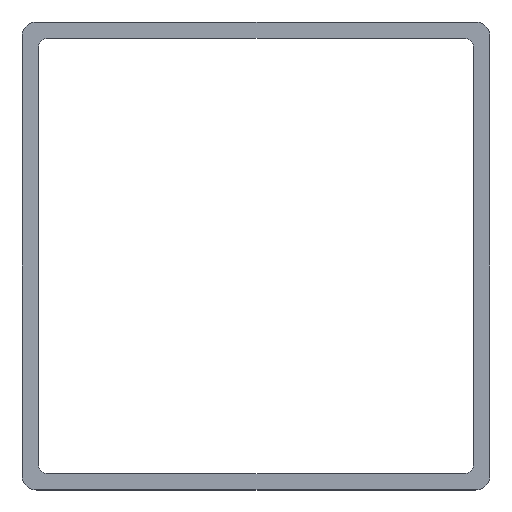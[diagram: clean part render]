
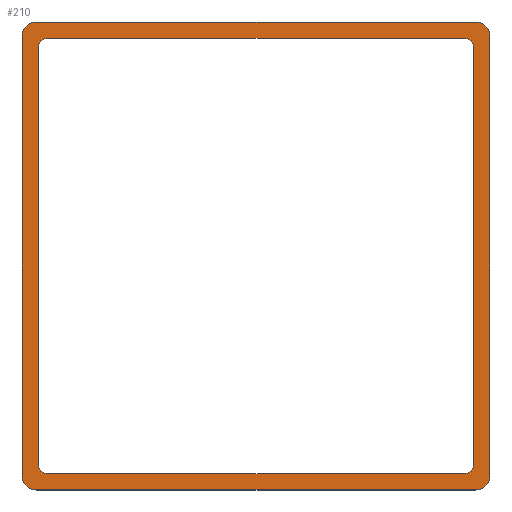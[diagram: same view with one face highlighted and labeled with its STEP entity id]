
A CAD part, top view. The second image highlights one B-rep face of the part: STEP entity #210.
In plain terms, the highlighted planar face has unit normal (0, 0, 1).
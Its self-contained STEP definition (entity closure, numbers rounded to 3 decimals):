
#3 = VERTEX_POINT ( 'NONE', #178 ) ;
#4 = EDGE_CURVE ( 'NONE', #577, #206, #215, .T. ) ;
#5 = CARTESIAN_POINT ( 'NONE',  ( -23.9, 23.9, 1.5 ) ) ;
#8 = AXIS2_PLACEMENT_3D ( 'NONE', #637, #354, #23 ) ;
#14 = CARTESIAN_POINT ( 'NONE',  ( 21.25, 21.25, 1.5 ) ) ;
#15 = VERTEX_POINT ( 'NONE', #404 ) ;
#19 = CARTESIAN_POINT ( 'NONE',  ( 0., 0., 1.5 ) ) ;
#20 = ORIENTED_EDGE ( 'NONE', *, *, #260, .F. ) ;
#23 = DIRECTION ( 'NONE',  ( -1., 0., 0. ) ) ;
#24 = DIRECTION ( 'NONE',  ( -1., 0., 0. ) ) ;
#28 = VECTOR ( 'NONE', #519, 1000. ) ;
#33 = ORIENTED_EDGE ( 'NONE', *, *, #616, .F. ) ;
#47 = VERTEX_POINT ( 'NONE', #255 ) ;
#49 = LINE ( 'NONE', #124, #171 ) ;
#65 = VERTEX_POINT ( 'NONE', #614 ) ;
#66 = DIRECTION ( 'NONE',  ( -1., 0., 0. ) ) ;
#69 = ORIENTED_EDGE ( 'NONE', *, *, #438, .F. ) ;
#74 = DIRECTION ( 'NONE',  ( -1., 0., 0. ) ) ;
#78 = DIRECTION ( 'NONE',  ( 0., 0., 1. ) ) ;
#85 = AXIS2_PLACEMENT_3D ( 'NONE', #146, #471, #106 ) ;
#91 = CARTESIAN_POINT ( 'NONE',  ( -22.4, -23.9, 1.5 ) ) ;
#95 = CIRCLE ( 'NONE', #517, 1.5 ) ;
#99 = DIRECTION ( 'NONE',  ( 1., 0., 0. ) ) ;
#100 = ORIENTED_EDGE ( 'NONE', *, *, #131, .T. ) ;
#102 = AXIS2_PLACEMENT_3D ( 'NONE', #19, #399, #74 ) ;
#106 = DIRECTION ( 'NONE',  ( -1., 0., 0. ) ) ;
#113 = AXIS2_PLACEMENT_3D ( 'NONE', #14, #395, #66 ) ;
#115 = CARTESIAN_POINT ( 'NONE',  ( -22.4, 22.4, 1.5 ) ) ;
#117 = LINE ( 'NONE', #5, #627 ) ;
#120 = LINE ( 'NONE', #415, #644 ) ;
#124 = CARTESIAN_POINT ( 'NONE',  ( -22.25, -22.25, 1.5 ) ) ;
#131 = EDGE_CURVE ( 'NONE', #65, #15, #589, .T. ) ;
#138 = EDGE_CURVE ( 'NONE', #243, #65, #573, .T. ) ;
#139 = AXIS2_PLACEMENT_3D ( 'NONE', #242, #572, #286 ) ;
#140 = VERTEX_POINT ( 'NONE', #381 ) ;
#145 = AXIS2_PLACEMENT_3D ( 'NONE', #400, #78, #24 ) ;
#146 = CARTESIAN_POINT ( 'NONE',  ( 22.4, 22.4, 1.5 ) ) ;
#148 = ORIENTED_EDGE ( 'NONE', *, *, #263, .T. ) ;
#150 = CARTESIAN_POINT ( 'NONE',  ( 22.25, 21.25, 1.5 ) ) ;
#160 = DIRECTION ( 'NONE',  ( -1., 0., 0. ) ) ;
#164 = CARTESIAN_POINT ( 'NONE',  ( -23.9, 22.4, 1.5 ) ) ;
#170 = VERTEX_POINT ( 'NONE', #478 ) ;
#171 = VECTOR ( 'NONE', #497, 1000. ) ;
#173 = ORIENTED_EDGE ( 'NONE', *, *, #138, .T. ) ;
#178 = CARTESIAN_POINT ( 'NONE',  ( -22.25, 21.25, 1.5 ) ) ;
#180 = AXIS2_PLACEMENT_3D ( 'NONE', #570, #282, #624 ) ;
#196 = EDGE_CURVE ( 'NONE', #322, #563, #95, .T. ) ;
#206 = VERTEX_POINT ( 'NONE', #91 ) ;
#209 = CARTESIAN_POINT ( 'NONE',  ( -22.4, 23.9, 1.5 ) ) ;
#210 = ADVANCED_FACE ( 'NONE', ( #554, #288 ), #631, .F. ) ;
#215 = CIRCLE ( 'NONE', #145, 1.5 ) ;
#216 = DIRECTION ( 'NONE',  ( 0., -1., 0. ) ) ;
#223 = ORIENTED_EDGE ( 'NONE', *, *, #196, .T. ) ;
#228 = EDGE_CURVE ( 'NONE', #206, #305, #120, .T. ) ;
#230 = CARTESIAN_POINT ( 'NONE',  ( 23.9, -23.9, 1.5 ) ) ;
#232 = CARTESIAN_POINT ( 'NONE',  ( -22.25, -22.25, 1.5 ) ) ;
#242 = CARTESIAN_POINT ( 'NONE',  ( -21.25, 21.25, 1.5 ) ) ;
#243 = VERTEX_POINT ( 'NONE', #604 ) ;
#255 = CARTESIAN_POINT ( 'NONE',  ( -21.25, -22.25, 1.5 ) ) ;
#258 = CIRCLE ( 'NONE', #139, 1. ) ;
#260 = EDGE_CURVE ( 'NONE', #318, #436, #630, .T. ) ;
#263 = EDGE_CURVE ( 'NONE', #563, #577, #613, .T. ) ;
#264 = CARTESIAN_POINT ( 'NONE',  ( 22.25, -21.25, 1.5 ) ) ;
#278 = CARTESIAN_POINT ( 'NONE',  ( 22.4, -22.4, 1.5 ) ) ;
#282 = DIRECTION ( 'NONE',  ( 0., 0., -1. ) ) ;
#286 = DIRECTION ( 'NONE',  ( -1., 0., 0. ) ) ;
#288 = FACE_BOUND ( 'NONE', #320, .T. ) ;
#302 = EDGE_LOOP ( 'NONE', ( #484, #605, #173, #100, #419, #223, #148, #476 ) ) ;
#305 = VERTEX_POINT ( 'NONE', #601 ) ;
#318 = VERTEX_POINT ( 'NONE', #264 ) ;
#320 = EDGE_LOOP ( 'NONE', ( #20, #593, #440, #446, #69, #555, #33, #455 ) ) ;
#322 = VERTEX_POINT ( 'NONE', #209 ) ;
#323 = EDGE_CURVE ( 'NONE', #305, #243, #351, .T. ) ;
#332 = DIRECTION ( 'NONE',  ( -1., 0., 0. ) ) ;
#340 = CARTESIAN_POINT ( 'NONE',  ( -23.9, -22.4, 1.5 ) ) ;
#351 = CIRCLE ( 'NONE', #529, 1.5 ) ;
#354 = DIRECTION ( 'NONE',  ( 0., 0., -1. ) ) ;
#362 = VERTEX_POINT ( 'NONE', #566 ) ;
#369 = VECTOR ( 'NONE', #216, 1000. ) ;
#381 = CARTESIAN_POINT ( 'NONE',  ( -21.25, 22.25, 1.5 ) ) ;
#386 = DIRECTION ( 'NONE',  ( 0., -1., 0. ) ) ;
#395 = DIRECTION ( 'NONE',  ( 0., 0., -1. ) ) ;
#396 = VECTOR ( 'NONE', #386, 1000. ) ;
#397 = VECTOR ( 'NONE', #463, 1000. ) ;
#399 = DIRECTION ( 'NONE',  ( 0., 0., -1. ) ) ;
#400 = CARTESIAN_POINT ( 'NONE',  ( -22.4, -22.4, 1.5 ) ) ;
#402 = DIRECTION ( 'NONE',  ( -1., 0., 0. ) ) ;
#404 = CARTESIAN_POINT ( 'NONE',  ( 22.4, 23.9, 1.5 ) ) ;
#415 = CARTESIAN_POINT ( 'NONE',  ( -23.9, -23.9, 1.5 ) ) ;
#416 = CARTESIAN_POINT ( 'NONE',  ( 22.25, -22.25, 1.5 ) ) ;
#419 = ORIENTED_EDGE ( 'NONE', *, *, #494, .T. ) ;
#423 = VERTEX_POINT ( 'NONE', #621 ) ;
#436 = VERTEX_POINT ( 'NONE', #150 ) ;
#438 = EDGE_CURVE ( 'NONE', #3, #362, #530, .T. ) ;
#440 = ORIENTED_EDGE ( 'NONE', *, *, #647, .F. ) ;
#446 = ORIENTED_EDGE ( 'NONE', *, *, #629, .T. ) ;
#452 = CIRCLE ( 'NONE', #8, 1. ) ;
#455 = ORIENTED_EDGE ( 'NONE', *, *, #559, .T. ) ;
#463 = DIRECTION ( 'NONE',  ( 0., 1., 0. ) ) ;
#471 = DIRECTION ( 'NONE',  ( 0., 0., 1. ) ) ;
#476 = ORIENTED_EDGE ( 'NONE', *, *, #4, .T. ) ;
#478 = CARTESIAN_POINT ( 'NONE',  ( 21.25, 22.25, 1.5 ) ) ;
#483 = DIRECTION ( 'NONE',  ( 0., 0., 1. ) ) ;
#484 = ORIENTED_EDGE ( 'NONE', *, *, #228, .T. ) ;
#490 = CIRCLE ( 'NONE', #113, 1. ) ;
#494 = EDGE_CURVE ( 'NONE', #15, #322, #117, .T. ) ;
#497 = DIRECTION ( 'NONE',  ( 1., 0., 0. ) ) ;
#504 = CIRCLE ( 'NONE', #180, 1. ) ;
#514 = CARTESIAN_POINT ( 'NONE',  ( -23.9, -23.9, 1.5 ) ) ;
#517 = AXIS2_PLACEMENT_3D ( 'NONE', #115, #483, #160 ) ;
#519 = DIRECTION ( 'NONE',  ( 0., 1., 0. ) ) ;
#525 = EDGE_CURVE ( 'NONE', #318, #423, #504, .T. ) ;
#529 = AXIS2_PLACEMENT_3D ( 'NONE', #278, #618, #332 ) ;
#530 = LINE ( 'NONE', #232, #396 ) ;
#551 = EDGE_CURVE ( 'NONE', #3, #140, #258, .T. ) ;
#554 = FACE_OUTER_BOUND ( 'NONE', #302, .T. ) ;
#555 = ORIENTED_EDGE ( 'NONE', *, *, #551, .T. ) ;
#559 = EDGE_CURVE ( 'NONE', #170, #436, #490, .T. ) ;
#560 = DIRECTION ( 'NONE',  ( -1., 0., 0. ) ) ;
#563 = VERTEX_POINT ( 'NONE', #164 ) ;
#566 = CARTESIAN_POINT ( 'NONE',  ( -22.25, -21.25, 1.5 ) ) ;
#570 = CARTESIAN_POINT ( 'NONE',  ( 21.25, -21.25, 1.5 ) ) ;
#572 = DIRECTION ( 'NONE',  ( 0., 0., -1. ) ) ;
#573 = LINE ( 'NONE', #230, #28 ) ;
#577 = VERTEX_POINT ( 'NONE', #340 ) ;
#578 = VECTOR ( 'NONE', #402, 1000. ) ;
#589 = CIRCLE ( 'NONE', #85, 1.5 ) ;
#593 = ORIENTED_EDGE ( 'NONE', *, *, #525, .T. ) ;
#595 = LINE ( 'NONE', #633, #578 ) ;
#601 = CARTESIAN_POINT ( 'NONE',  ( 22.4, -23.9, 1.5 ) ) ;
#604 = CARTESIAN_POINT ( 'NONE',  ( 23.9, -22.4, 1.5 ) ) ;
#605 = ORIENTED_EDGE ( 'NONE', *, *, #323, .T. ) ;
#613 = LINE ( 'NONE', #514, #369 ) ;
#614 = CARTESIAN_POINT ( 'NONE',  ( 23.9, 22.4, 1.5 ) ) ;
#616 = EDGE_CURVE ( 'NONE', #170, #140, #595, .T. ) ;
#618 = DIRECTION ( 'NONE',  ( 0., 0., 1. ) ) ;
#621 = CARTESIAN_POINT ( 'NONE',  ( 21.25, -22.25, 1.5 ) ) ;
#624 = DIRECTION ( 'NONE',  ( -1., 0., 0. ) ) ;
#627 = VECTOR ( 'NONE', #560, 1000. ) ;
#629 = EDGE_CURVE ( 'NONE', #47, #362, #452, .T. ) ;
#630 = LINE ( 'NONE', #416, #397 ) ;
#631 = PLANE ( 'NONE',  #102 ) ;
#633 = CARTESIAN_POINT ( 'NONE',  ( -22.25, 22.25, 1.5 ) ) ;
#637 = CARTESIAN_POINT ( 'NONE',  ( -21.25, -21.25, 1.5 ) ) ;
#644 = VECTOR ( 'NONE', #99, 1000. ) ;
#647 = EDGE_CURVE ( 'NONE', #47, #423, #49, .T. ) ;
